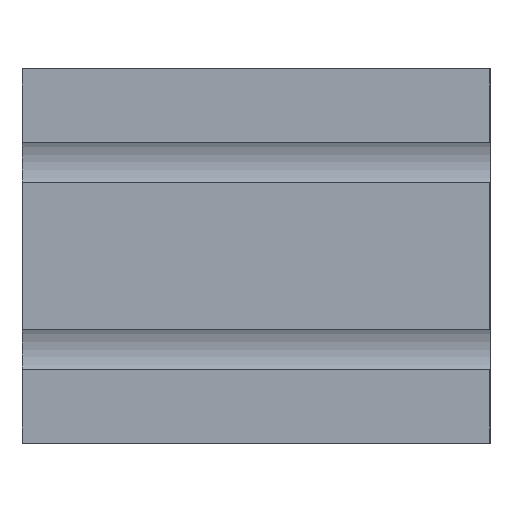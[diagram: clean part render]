
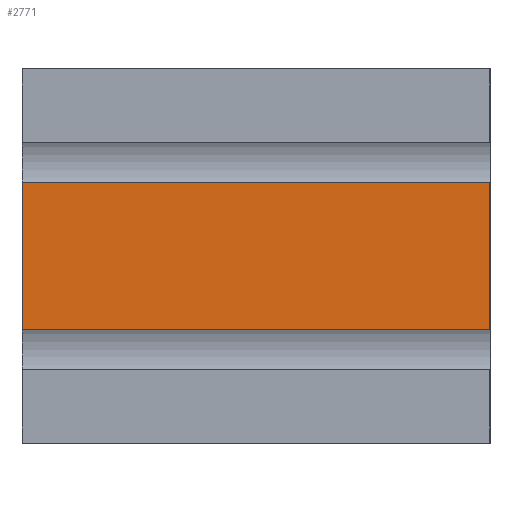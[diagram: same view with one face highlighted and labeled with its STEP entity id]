
A CAD part, left-side view. The second image highlights one B-rep face of the part: STEP entity #2771.
In plain terms, the highlighted planar face has unit normal (-1, 0, 0).
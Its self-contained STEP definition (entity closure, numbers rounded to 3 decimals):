
#472=ORIENTED_EDGE('',*,*,#1016,.T.);
#473=ORIENTED_EDGE('',*,*,#1223,.F.);
#474=ORIENTED_EDGE('',*,*,#1110,.F.);
#475=ORIENTED_EDGE('',*,*,#1224,.T.);
#1016=EDGE_CURVE('',#1407,#1406,#1688,.T.);
#1110=EDGE_CURVE('',#1497,#1498,#1758,.T.);
#1223=EDGE_CURVE('',#1498,#1406,#1849,.T.);
#1224=EDGE_CURVE('',#1497,#1407,#1850,.T.);
#1406=VERTEX_POINT('',#4041);
#1407=VERTEX_POINT('',#4043);
#1497=VERTEX_POINT('',#4229);
#1498=VERTEX_POINT('',#4231);
#1688=LINE('',#4042,#2038);
#1758=LINE('',#4230,#2108);
#1849=LINE('',#4449,#2199);
#1850=LINE('',#4450,#2200);
#2038=VECTOR('',#3241,1000.);
#2108=VECTOR('',#3365,1000.);
#2199=VECTOR('',#3512,1000.);
#2200=VECTOR('',#3513,1000.);
#2343=EDGE_LOOP('',(#472,#473,#474,#475));
#2511=FACE_BOUND('',#2343,.T.);
#2653=PLANE('',#2980);
#2771=ADVANCED_FACE('',(#2511),#2653,.F.);
#2980=AXIS2_PLACEMENT_3D('',#4448,#3510,#3511);
#3241=DIRECTION('',(0.,0.,-1.));
#3365=DIRECTION('',(0.,0.,-1.));
#3510=DIRECTION('',(1.,0.,0.));
#3511=DIRECTION('',(0.,0.,-1.));
#3512=DIRECTION('',(0.,1.,0.));
#3513=DIRECTION('',(0.,1.,0.));
#4041=CARTESIAN_POINT('',(-60.,50.,-15.8));
#4042=CARTESIAN_POINT('',(-60.,50.,40.));
#4043=CARTESIAN_POINT('',(-60.,50.,15.8));
#4229=CARTESIAN_POINT('',(-60.,-50.,15.8));
#4230=CARTESIAN_POINT('',(-60.,-50.,40.));
#4231=CARTESIAN_POINT('',(-60.,-50.,-15.8));
#4448=CARTESIAN_POINT('',(-60.,-50.,40.));
#4449=CARTESIAN_POINT('',(-60.,-175.499,-15.8));
#4450=CARTESIAN_POINT('',(-60.,-50.,15.8));
